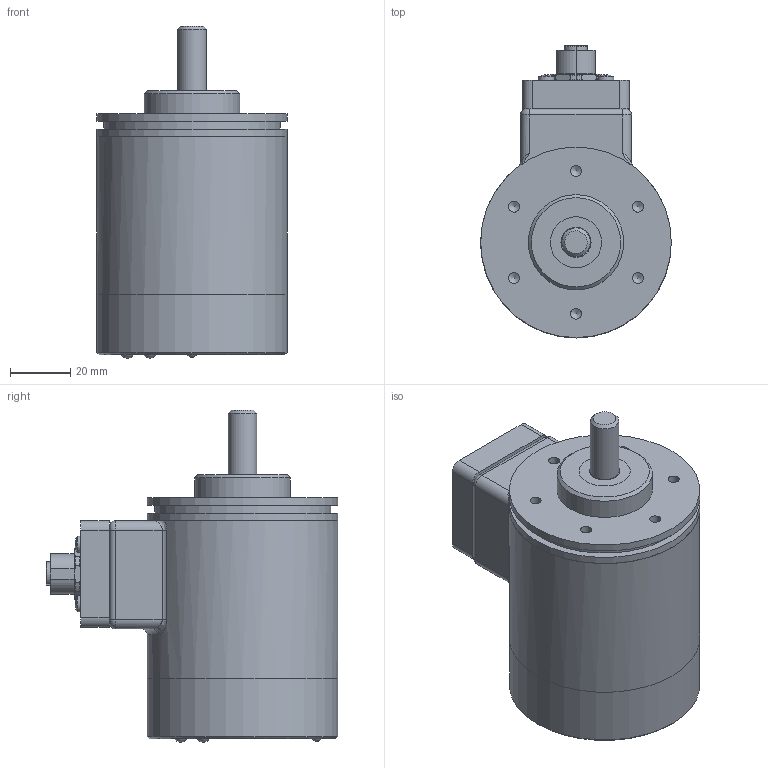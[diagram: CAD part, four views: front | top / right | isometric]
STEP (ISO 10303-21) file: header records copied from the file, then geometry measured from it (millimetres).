
FILE_DESCRIPTION(/* description */ ('Alibre Inc.'),/* implementation_level */ '2;1');
FILE_NAME(/* name */ 'export0',/* time_stamp */ '2010-05-25T09:16:30-04:00',/* author */ (''),/* organization */ (''),/* preprocessor_version */ 'ST-DEVELOPER v10',/* originating_system */ 'Alibre',/* authorisation */ '');
FILE_SCHEMA (('CONFIG_CONTROL_DESIGN'));
Length unit declared in the file: centimetre
Products named in the file (14): ID_1; ID_2; ID_3; ID_4; ID_5; ID_6; ID_7; ID_8; ID_9; ID_10; ID_11
Bounding box: 63.5 x 97.22 x 110.63 mm (x, y, z)
Volume: 291242.2 mm3; surface area: 52732.5 mm2
Topology: 15 solids, 15 shells, 341 faces, 748 edges, 481 vertices
Faces by surface type: plane 109, cylinder 106, bspline 72, cone 42, torus 8, sphere 4
Full cylindrical faces by diameter (mm): 2.87 x4, 2.92 x2, 3 x21, 3.65 x6, 3.96 x4, 5.44 x4, 9.525 x1, 10 x3, 11.5 x2, 17 x2, 24 x1, 26 x2, 31.75 x1, 58.674 x1, 58.72 x2, 63.5 x4
Entity records: 9278 total; most frequent: CARTESIAN_POINT 2339, DIRECTION 1107, ORIENTED_EDGE 992, AXIS2_PLACEMENT_3D 521, EDGE_CURVE 496, FACE_BOUND 395, EDGE_LOOP 389, VERTEX_POINT 359
